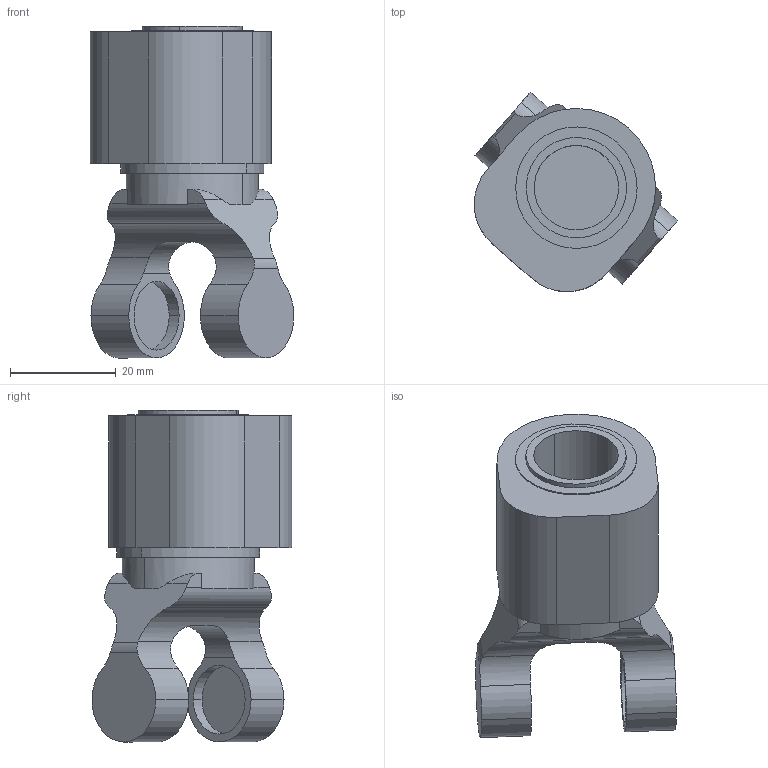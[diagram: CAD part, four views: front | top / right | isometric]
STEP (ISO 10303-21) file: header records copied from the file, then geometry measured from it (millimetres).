
FILE_DESCRIPTION (( 'STEP AP214' ), '1' );
FILE_NAME ('IRB365_1.5-1300_OmniCore_rev00_UNIVERSAL_JOINT_2_CAD.STEP', '2025-09-10T10:45:58', ( '' ), ( '' ), 'SwSTEP 2.0', 'SolidWorks 2024', '' );
FILE_SCHEMA (( 'AUTOMOTIVE_DESIGN' ));
Length unit declared in the file: millimetre
Products named in the file (1): IRB365_1.5-1300_OmniCore_rev00_UNIVERSAL_JOINT_2_CAD
Bounding box: 38.56 x 37.88 x 62.88 mm (x, y, z)
Volume: 28021.1 mm3; surface area: 9310.8 mm2
Topology: 1 solids, 2 shells, 73 faces, 186 edges, 124 vertices
Faces by surface type: cylinder 41, plane 32
Entity records: 3321 total; most frequent: CARTESIAN_POINT 721, DIRECTION 376, ORIENTED_EDGE 372, EDGE_CURVE 186, AXIS2_PLACEMENT_3D 148, VERTEX_POINT 124, EDGE_LOOP 82, LINE 80
